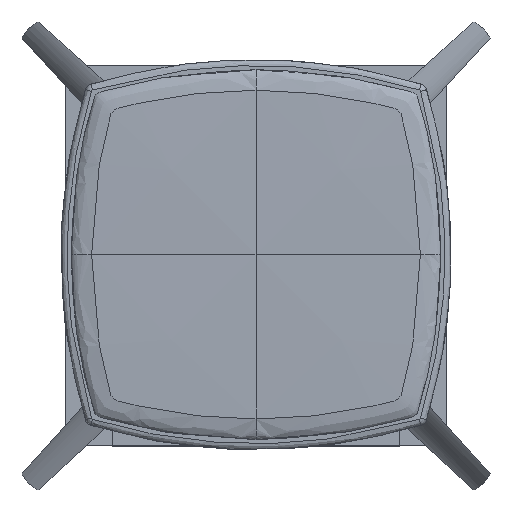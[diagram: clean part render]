
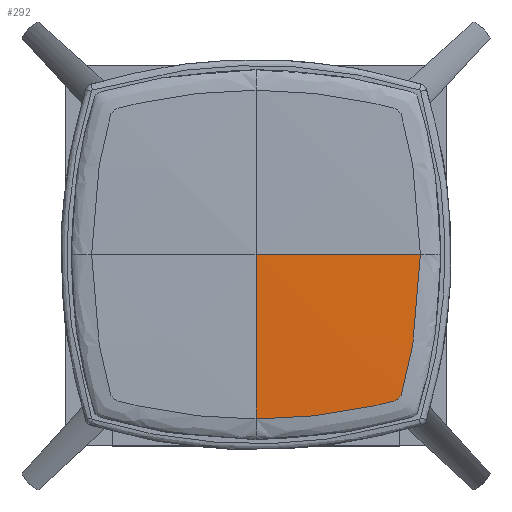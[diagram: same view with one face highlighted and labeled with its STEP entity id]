
A CAD part, top view. The second image highlights one B-rep face of the part: STEP entity #292.
In plain terms, the highlighted free-form (B-spline) face has degree [3, 3] with [5, 5] control points.
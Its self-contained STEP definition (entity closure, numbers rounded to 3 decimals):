
#292=ADVANCED_FACE('',(#428),#1900,.T.);
#428=FACE_OUTER_BOUND('',#564,.T.);
#564=EDGE_LOOP('',(#713,#714,#715));
#713=ORIENTED_EDGE('',*,*,#1270,.F.);
#714=ORIENTED_EDGE('',*,*,#1268,.F.);
#715=ORIENTED_EDGE('',*,*,#1272,.F.);
#1268=EDGE_CURVE('',#1722,#1724,#1552,.T.);
#1270=EDGE_CURVE('',#1724,#1726,#1554,.T.);
#1272=EDGE_CURVE('',#1726,#1722,#1556,.T.);
#1552=B_SPLINE_CURVE_WITH_KNOTS('',3,(#3114,#3115,#3116,#3117,#3118),
 .UNSPECIFIED.,.F.,.F.,(4,1,4),(330.,412.5,490.),
 .UNSPECIFIED.);
#1554=B_SPLINE_CURVE_WITH_KNOTS('',3,(#3160,#3161,#3162,#3163,#3164,#3165,
#3166,#3167,#3168,#3169,#3170,#3171,#3172,#3173,#3174,#3175,#3176,#3177,
#3178,#3179,#3180,#3181,#3182,#3183,#3184,#3185,#3186,#3187,#3188,#3189,
#3190,#3191,#3192,#3193,#3194,#3195,#3196,#3197,#3198,#3199,#3200),
 .UNSPECIFIED.,.F.,.F.,(4,2,2,2,2,2,1,1,1,2,2,1,1,1,2,2,1,1,1,2,2,2,2,2,
4),(-300.368,-231.327,-196.806,-179.546,
-170.916,-166.601,-164.443,-162.286,
-160.128,-156.23,-153.202,-151.685,
-150.174,-148.662,-147.151,-144.128,
-140.24,-138.083,-135.925,-133.767,
-129.452,-120.822,-103.562,-69.041,
0.),.UNSPECIFIED.);
#1556=B_SPLINE_CURVE_WITH_KNOTS('',3,(#3205,#3206,#3207,#3208,#3209),
 .UNSPECIFIED.,.F.,.F.,(4,1,4),(170.,247.5,330.),
 .UNSPECIFIED.);
#1722=VERTEX_POINT('',#2923);
#1724=VERTEX_POINT('',#2925);
#1726=VERTEX_POINT('',#2927);
#1900=B_SPLINE_SURFACE_WITH_KNOTS('',3,3,((#2705,#2706,#2707,#2708,#2709),
(#2710,#2711,#2712,#2713,#2714),(#2715,#2716,#2717,#2718,#2719),(#2720,
#2721,#2722,#2723,#2724),(#2725,#2726,#2727,#2728,#2729)),.UNSPECIFIED.,
 .F.,.F.,.F.,(4,1,4),(4,1,4),(0.,82.5,165.),(0.,82.5,165.),
 .UNSPECIFIED.);
#2705=CARTESIAN_POINT('',(165.,-165.,764.875));
#2706=CARTESIAN_POINT('',(137.5,-165.,766.125));
#2707=CARTESIAN_POINT('',(82.5,-165.,766.125));
#2708=CARTESIAN_POINT('',(27.5,-165.,766.125));
#2709=CARTESIAN_POINT('',(0.,-165.,766.125));
#2710=CARTESIAN_POINT('',(165.,-137.5,766.125));
#2711=CARTESIAN_POINT('',(137.5,-137.5,766.75));
#2712=CARTESIAN_POINT('',(82.5,-137.5,768.));
#2713=CARTESIAN_POINT('',(27.5,-137.5,768.));
#2714=CARTESIAN_POINT('',(0.,-137.5,768.));
#2715=CARTESIAN_POINT('',(165.,-82.5,766.125));
#2716=CARTESIAN_POINT('',(137.5,-82.5,768.));
#2717=CARTESIAN_POINT('',(82.5,-82.5,768.));
#2718=CARTESIAN_POINT('',(27.5,-82.5,768.));
#2719=CARTESIAN_POINT('',(0.,-82.5,768.));
#2720=CARTESIAN_POINT('',(165.,-27.5,766.125));
#2721=CARTESIAN_POINT('',(137.5,-27.5,768.));
#2722=CARTESIAN_POINT('',(82.5,-27.5,768.));
#2723=CARTESIAN_POINT('',(27.5,-27.5,768.));
#2724=CARTESIAN_POINT('',(0.,-27.5,768.));
#2725=CARTESIAN_POINT('',(165.,0.,766.125));
#2726=CARTESIAN_POINT('',(137.5,0.,768.));
#2727=CARTESIAN_POINT('',(82.5,0.,768.));
#2728=CARTESIAN_POINT('',(27.5,0.,768.));
#2729=CARTESIAN_POINT('',(0.,0.,768.));
#2923=CARTESIAN_POINT('',(0.,0.,768.));
#2925=CARTESIAN_POINT('',(160.,0.,766.446));
#2927=CARTESIAN_POINT('',(0.,-160.,766.446));
#3114=CARTESIAN_POINT('',(0.,0.,768.));
#3115=CARTESIAN_POINT('',(27.5,0.,768.));
#3116=CARTESIAN_POINT('',(80.833,0.,768.));
#3117=CARTESIAN_POINT('',(134.167,0.,768.));
#3118=CARTESIAN_POINT('',(160.,0.,766.446));
#3160=CARTESIAN_POINT('',(160.,0.,766.446));
#3161=CARTESIAN_POINT('',(160.005,-22.58,766.441));
#3162=CARTESIAN_POINT('',(158.533,-45.16,766.547));
#3163=CARTESIAN_POINT('',(154.127,-78.741,766.694));
#3164=CARTESIAN_POINT('',(152.297,-89.888,766.739));
#3165=CARTESIAN_POINT('',(149.008,-106.5,766.726));
#3166=CARTESIAN_POINT('',(147.822,-112.02,766.707));
#3167=CARTESIAN_POINT('',(145.909,-120.268,766.652));
#3168=CARTESIAN_POINT('',(145.249,-123.011,766.629));
#3169=CARTESIAN_POINT('',(144.224,-127.121,766.588));
#3170=CARTESIAN_POINT('',(143.879,-128.482,766.573));
#3171=CARTESIAN_POINT('',(143.346,-130.549,766.548));
#3172=CARTESIAN_POINT('',(143.015,-131.822,766.533));
#3173=CARTESIAN_POINT('',(142.387,-134.211,766.501));
#3174=CARTESIAN_POINT('',(142.06,-135.233,766.487));
#3175=CARTESIAN_POINT('',(141.57,-136.318,766.476));
#3176=CARTESIAN_POINT('',(140.972,-137.345,766.468));
#3177=CARTESIAN_POINT('',(140.672,-137.793,766.466));
#3178=CARTESIAN_POINT('',(140.181,-138.421,766.463));
#3179=CARTESIAN_POINT('',(139.841,-138.828,766.462));
#3180=CARTESIAN_POINT('',(139.285,-139.41,766.461));
#3181=CARTESIAN_POINT('',(138.721,-139.935,766.462));
#3182=CARTESIAN_POINT('',(138.318,-140.264,766.464));
#3183=CARTESIAN_POINT('',(137.703,-140.735,766.466));
#3184=CARTESIAN_POINT('',(137.263,-141.023,766.469));
#3185=CARTESIAN_POINT('',(136.26,-141.598,766.477));
#3186=CARTESIAN_POINT('',(135.196,-142.072,766.488));
#3187=CARTESIAN_POINT('',(134.218,-142.384,766.5));
#3188=CARTESIAN_POINT('',(131.819,-143.015,766.533));
#3189=CARTESIAN_POINT('',(130.549,-143.346,766.548));
#3190=CARTESIAN_POINT('',(128.482,-143.879,766.573));
#3191=CARTESIAN_POINT('',(127.121,-144.224,766.588));
#3192=CARTESIAN_POINT('',(123.011,-145.249,766.629));
#3193=CARTESIAN_POINT('',(120.268,-145.909,766.652));
#3194=CARTESIAN_POINT('',(112.02,-147.822,766.707));
#3195=CARTESIAN_POINT('',(106.5,-149.008,766.726));
#3196=CARTESIAN_POINT('',(89.888,-152.297,766.739));
#3197=CARTESIAN_POINT('',(78.741,-154.127,766.694));
#3198=CARTESIAN_POINT('',(45.16,-158.533,766.547));
#3199=CARTESIAN_POINT('',(22.58,-160.005,766.441));
#3200=CARTESIAN_POINT('',(0.,-160.,766.446));
#3205=CARTESIAN_POINT('',(0.,-160.,766.446));
#3206=CARTESIAN_POINT('',(0.,-134.167,768.));
#3207=CARTESIAN_POINT('',(0.,-80.833,768.));
#3208=CARTESIAN_POINT('',(0.,-27.5,768.));
#3209=CARTESIAN_POINT('',(0.,0.,768.));
